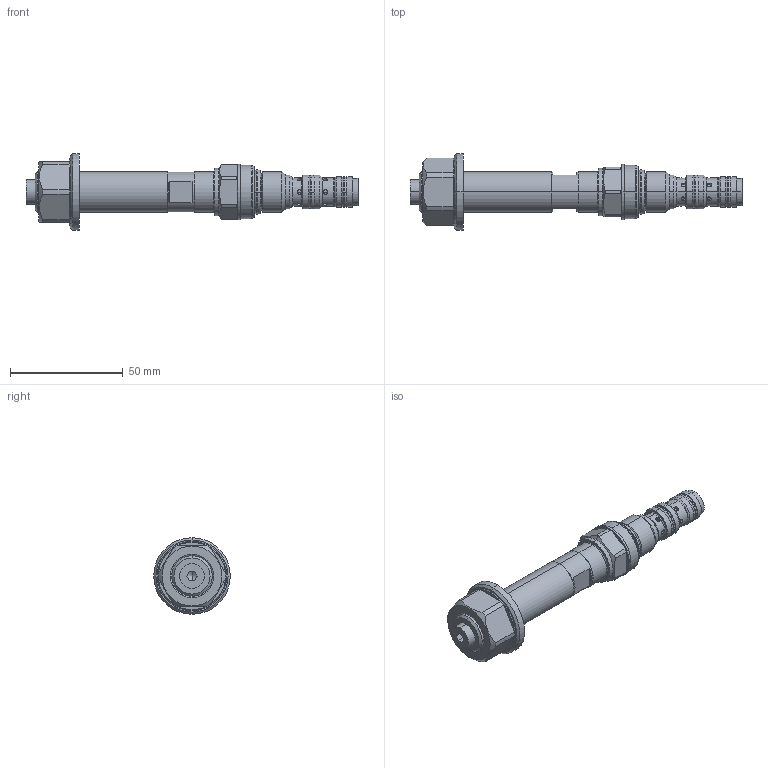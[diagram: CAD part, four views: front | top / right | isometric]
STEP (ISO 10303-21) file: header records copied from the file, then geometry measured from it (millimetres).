
FILE_DESCRIPTION (( 'STEP AP214' ), '1' );
FILE_NAME ('SDYPM18-FG-X5.STEP', '2017-03-07T14:52:20', ( '' ), ( '' ), 'SwSTEP 2.0', 'SolidWorks 2016', '' );
FILE_SCHEMA (( 'AUTOMOTIVE_DESIGN' ));
Length unit declared in the file: millimetre
Products named in the file (1): SDYPM18-FG-X5
Bounding box: 147.5 x 34 x 34 mm (x, y, z)
Volume: 42741.3 mm3; surface area: 13275.1 mm2
Topology: 1 solids, 7 shells, 320 faces, 728 edges, 453 vertices
Faces by surface type: cylinder 97, plane 82, torus 52, bspline 50, cone 39
Entity records: 14982 total; most frequent: CARTESIAN_POINT 4570, DIRECTION 1508, ORIENTED_EDGE 1452, EDGE_CURVE 726, AXIS2_PLACEMENT_3D 643, VERTEX_POINT 453, CIRCLE 372, EDGE_LOOP 365
